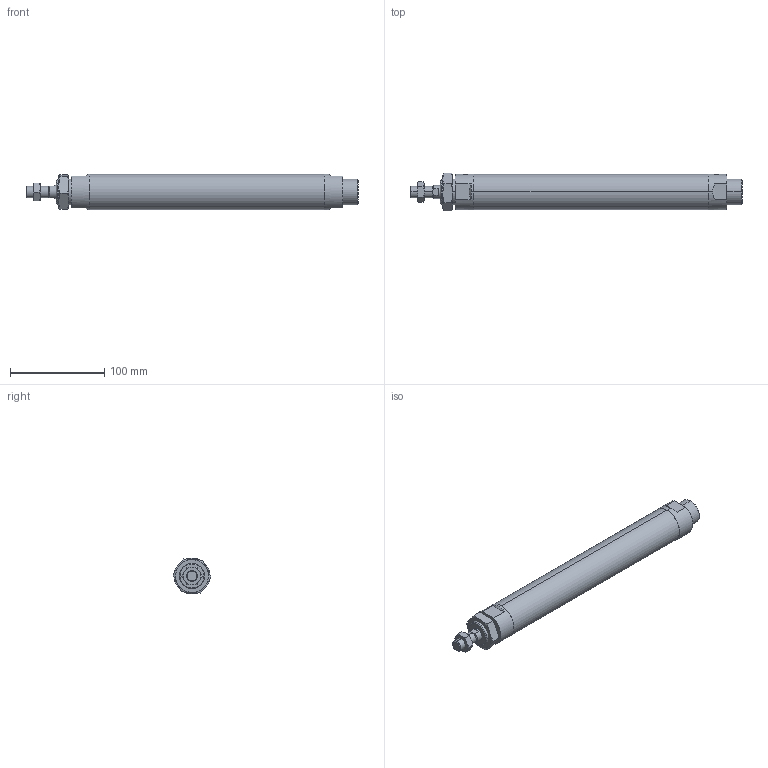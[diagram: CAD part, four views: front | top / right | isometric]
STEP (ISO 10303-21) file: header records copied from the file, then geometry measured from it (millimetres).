
FILE_DESCRIPTION (( 'STEP AP203' ), '1' );
FILE_NAME ('J#2-32-200-N.STEP', '2016-03-08T07:43:51', ( '' ), ( '' ), 'SwSTEP 2.0', 'SolidWorks 2014', '' );
FILE_SCHEMA (( 'CONFIG_CONTROL_DESIGN' ));
Length unit declared in the file: millimetre
Products named in the file (4): J#2-32-200-N; J#2-32-200
Assembly tree (3 placements, depth 2):
  J#2-32-200-N
    J#2-32-200
    (unnamed)
    (unnamed)
Bounding box: 353 x 40.33 x 38 mm (x, y, z)
Volume: 346973.7 mm3; surface area: 45647 mm2
Topology: 3 solids, 3 shells, 94 faces, 210 edges, 125 vertices
Faces by surface type: plane 33, torus 24, cylinder 22, cone 15
Entity records: 3451 total; most frequent: CARTESIAN_POINT 1038, DIRECTION 421, ORIENTED_EDGE 412, EDGE_CURVE 206, AXIS2_PLACEMENT_3D 178, VERTEX_POINT 125, EDGE_LOOP 105, ADVANCED_FACE 94
